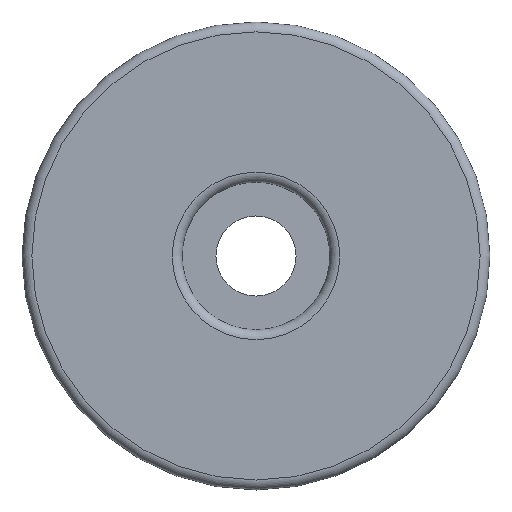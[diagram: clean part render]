
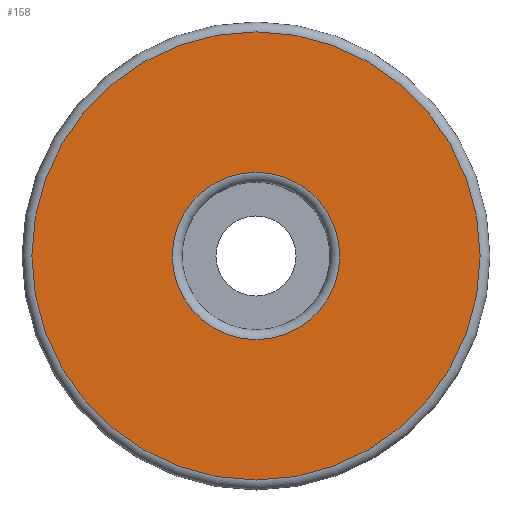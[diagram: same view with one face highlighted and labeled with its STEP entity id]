
A CAD part, top view. The second image highlights one B-rep face of the part: STEP entity #158.
In plain terms, the highlighted planar face has unit normal (0, 0, 1).
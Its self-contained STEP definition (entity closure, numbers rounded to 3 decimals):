
#25=FACE_BOUND('',#48,.T.);
#28=PLANE('',#202);
#36=FACE_OUTER_BOUND('',#47,.T.);
#47=EDGE_LOOP('',(#133,#134));
#48=EDGE_LOOP('',(#135));
#64=CIRCLE('',#199,3.4);
#67=CIRCLE('',#203,9.1);
#68=CIRCLE('',#204,9.1);
#80=VERTEX_POINT('',#300);
#82=VERTEX_POINT('',#306);
#83=VERTEX_POINT('',#307);
#98=EDGE_CURVE('',#80,#80,#64,.T.);
#101=EDGE_CURVE('',#82,#83,#67,.T.);
#102=EDGE_CURVE('',#83,#82,#68,.T.);
#133=ORIENTED_EDGE('',*,*,#101,.F.);
#134=ORIENTED_EDGE('',*,*,#102,.F.);
#135=ORIENTED_EDGE('',*,*,#98,.F.);
#158=ADVANCED_FACE('',(#36,#25),#28,.T.);
#199=AXIS2_PLACEMENT_3D('',#301,#248,#249);
#202=AXIS2_PLACEMENT_3D('',#305,#254,#255);
#203=AXIS2_PLACEMENT_3D('',#308,#256,#257);
#204=AXIS2_PLACEMENT_3D('',#309,#258,#259);
#248=DIRECTION('center_axis',(0.,0.,1.));
#249=DIRECTION('ref_axis',(-1.,0.,0.));
#254=DIRECTION('center_axis',(0.,0.,1.));
#255=DIRECTION('ref_axis',(1.,0.,0.));
#256=DIRECTION('center_axis',(0.,0.,-1.));
#257=DIRECTION('ref_axis',(-1.,0.,0.));
#258=DIRECTION('center_axis',(0.,0.,-1.));
#259=DIRECTION('ref_axis',(-1.,0.,0.));
#300=CARTESIAN_POINT('',(3.4,0.,3.));
#301=CARTESIAN_POINT('Origin',(0.,0.,3.));
#305=CARTESIAN_POINT('Origin',(0.,0.,
3.));
#306=CARTESIAN_POINT('',(9.1,0.,3.));
#307=CARTESIAN_POINT('',(-9.1,0.,3.));
#308=CARTESIAN_POINT('Origin',(0.,0.,3.));
#309=CARTESIAN_POINT('Origin',(0.,0.,3.));
